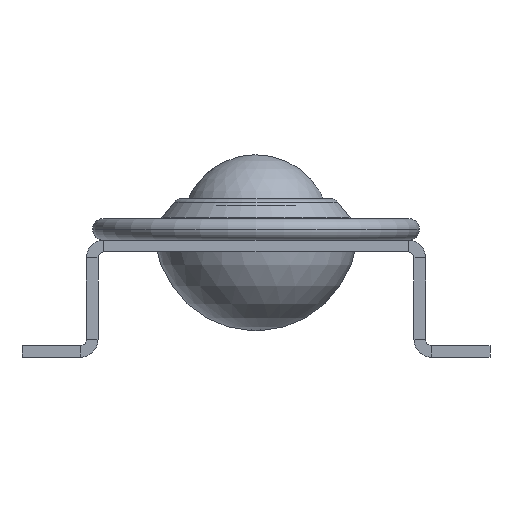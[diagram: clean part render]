
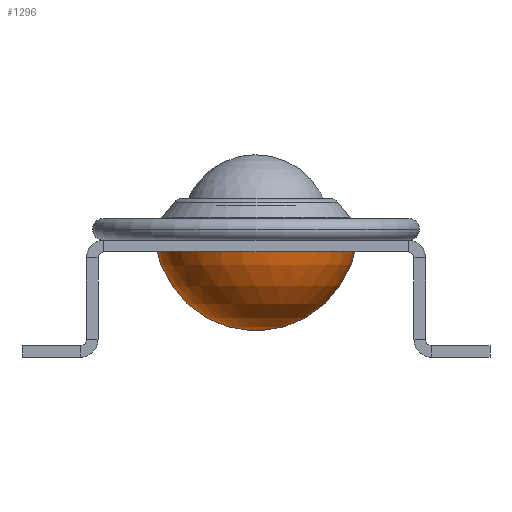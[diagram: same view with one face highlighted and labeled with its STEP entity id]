
A CAD part, front view. The second image highlights one B-rep face of the part: STEP entity #1296.
In plain terms, the highlighted spherical face has radius 17.4 mm.
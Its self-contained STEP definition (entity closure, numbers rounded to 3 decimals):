
#45=SPHERICAL_SURFACE('',#1452,17.4);
#287=FACE_BOUND('',#529,.T.);
#371=FACE_OUTER_BOUND('',#528,.T.);
#528=EDGE_LOOP('',(#1157));
#529=EDGE_LOOP('',(#1158));
#632=CIRCLE('',#1450,0.75);
#634=CIRCLE('',#1453,17.266);
#741=VERTEX_POINT('',#2193);
#743=VERTEX_POINT('',#2198);
#886=EDGE_CURVE('',#741,#741,#632,.T.);
#888=EDGE_CURVE('',#743,#743,#634,.T.);
#1157=ORIENTED_EDGE('',*,*,#888,.F.);
#1158=ORIENTED_EDGE('',*,*,#886,.T.);
#1296=ADVANCED_FACE('',(#371,#287),#45,.T.);
#1450=AXIS2_PLACEMENT_3D('',#2194,#1822,#1823);
#1452=AXIS2_PLACEMENT_3D('',#2197,#1826,#1827);
#1453=AXIS2_PLACEMENT_3D('',#2199,#1828,#1829);
#1822=DIRECTION('center_axis',(0.,0.,1.));
#1823=DIRECTION('ref_axis',(0.,-1.,0.));
#1826=DIRECTION('center_axis',(0.,0.,1.));
#1827=DIRECTION('ref_axis',(1.,0.,0.));
#1828=DIRECTION('center_axis',(0.,0.,1.));
#1829=DIRECTION('ref_axis',(0.,-1.,0.));
#2193=CARTESIAN_POINT('',(0.,-0.75,-15.484));
#2194=CARTESIAN_POINT('Origin',(0.,0.,-15.484));
#2197=CARTESIAN_POINT('Origin',(0.,0.,1.9));
#2198=CARTESIAN_POINT('',(0.,-17.266,-0.252));
#2199=CARTESIAN_POINT('Origin',(0.,0.,-0.252));
